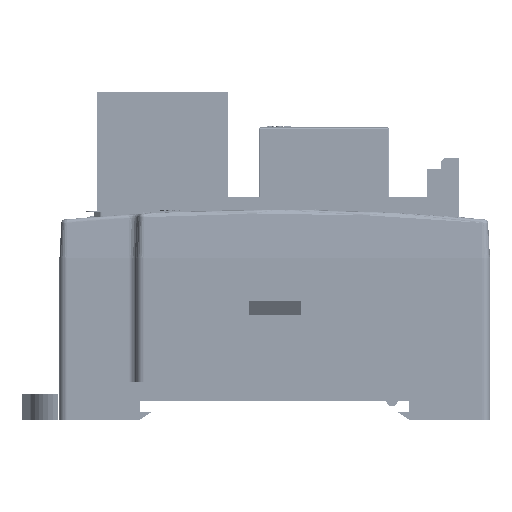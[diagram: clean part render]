
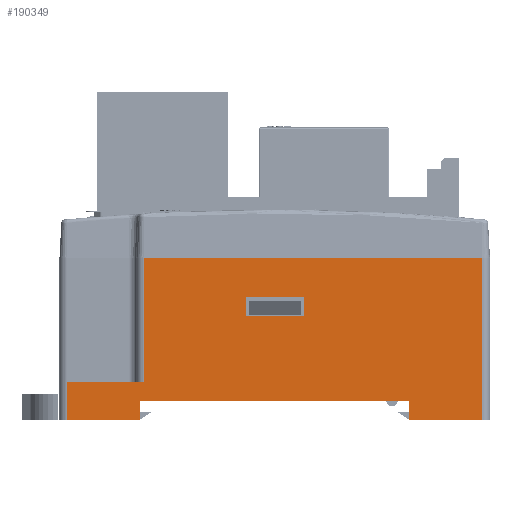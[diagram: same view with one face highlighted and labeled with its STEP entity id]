
A CAD part, front view. The second image highlights one B-rep face of the part: STEP entity #190349.
In plain terms, the highlighted planar face has unit normal (0, -1, 0).
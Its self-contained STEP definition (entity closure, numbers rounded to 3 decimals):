
#12616=DIRECTION('',(0.,0.,-1.));
#12617=VECTOR('',#12616,21.);
#12618=CARTESIAN_POINT('',(27.,-85.,0.));
#12619=LINE('',#12618,#12617);
#12676=DIRECTION('',(0.,0.,-1.));
#12677=VECTOR('',#12676,2.5);
#12678=CARTESIAN_POINT('',(17.5,-85.,-18.5));
#12679=LINE('',#12678,#12677);
#13271=DIRECTION('',(0.,0.,1.));
#13272=VECTOR('',#13271,16.1);
#13273=CARTESIAN_POINT('',(-17.,-85.,-16.1));
#13274=LINE('',#13273,#13272);
#13279=DIRECTION('',(1.,0.,0.));
#13280=VECTOR('',#13279,9.5);
#13281=CARTESIAN_POINT('',(17.5,-85.,-21.));
#13282=LINE('',#13281,#13280);
#13283=DIRECTION('',(1.,0.,0.));
#13284=VECTOR('',#13283,9.5);
#13285=CARTESIAN_POINT('',(-27.,-85.,-21.));
#13286=LINE('',#13285,#13284);
#13291=DIRECTION('',(0.,0.,1.));
#13292=VECTOR('',#13291,2.5);
#13293=CARTESIAN_POINT('',(-3.75,-85.,-7.5));
#13294=LINE('',#13293,#13292);
#13363=DIRECTION('',(1.,0.,0.));
#13364=VECTOR('',#13363,7.5);
#13365=CARTESIAN_POINT('',(-3.75,-85.,-5.));
#13366=LINE('',#13365,#13364);
#13512=DIRECTION('',(0.,0.,-1.));
#13513=VECTOR('',#13512,2.5);
#13514=CARTESIAN_POINT('',(3.75,-85.,-5.));
#13515=LINE('',#13514,#13513);
#13520=DIRECTION('',(-1.,0.,0.));
#13521=VECTOR('',#13520,7.5);
#13522=CARTESIAN_POINT('',(3.75,-85.,-7.5));
#13523=LINE('',#13522,#13521);
#13528=DIRECTION('',(-1.,0.,0.));
#13529=VECTOR('',#13528,35.);
#13530=CARTESIAN_POINT('',(17.5,-85.,-18.5));
#13531=LINE('',#13530,#13529);
#13536=DIRECTION('',(0.,0.,1.));
#13537=VECTOR('',#13536,2.5);
#13538=CARTESIAN_POINT('',(-17.5,-85.,-21.));
#13539=LINE('',#13538,#13537);
#62285=DIRECTION('',(1.,0.,0.));
#62286=VECTOR('',#62285,10.);
#62287=CARTESIAN_POINT('',(-27.,-85.,-16.1));
#62288=LINE('',#62287,#62286);
#62322=DIRECTION('',(0.,0.,1.));
#62323=VECTOR('',#62322,4.9);
#62324=CARTESIAN_POINT('',(-27.,-85.,-21.));
#62325=LINE('',#62324,#62323);
#62415=DIRECTION('',(1.,0.,0.));
#62416=VECTOR('',#62415,44.);
#62417=CARTESIAN_POINT('',(-17.,-85.,0.));
#62418=LINE('',#62417,#62416);
#166525=CARTESIAN_POINT('',(-17.5,-85.,-21.));
#166526=VERTEX_POINT('',#166525);
#166527=CARTESIAN_POINT('',(-27.,-85.,-21.));
#166528=VERTEX_POINT('',#166527);
#166555=CARTESIAN_POINT('',(27.,-85.,-21.));
#166556=VERTEX_POINT('',#166555);
#166557=CARTESIAN_POINT('',(17.5,-85.,-21.));
#166558=VERTEX_POINT('',#166557);
#166627=CARTESIAN_POINT('',(17.5,-85.,-18.5));
#166628=CARTESIAN_POINT('',(-17.5,-85.,-18.5));
#166629=VERTEX_POINT('',#166627);
#166630=VERTEX_POINT('',#166628);
#166631=CARTESIAN_POINT('',(-27.,-85.,-16.1));
#166632=VERTEX_POINT('',#166631);
#166633=CARTESIAN_POINT('',(-17.,-85.,-16.1));
#166634=VERTEX_POINT('',#166633);
#166635=CARTESIAN_POINT('',(-3.75,-85.,-7.5));
#166636=CARTESIAN_POINT('',(-3.75,-85.,-5.));
#166637=VERTEX_POINT('',#166635);
#166638=VERTEX_POINT('',#166636);
#166639=CARTESIAN_POINT('',(3.75,-85.,-7.5));
#166640=VERTEX_POINT('',#166639);
#166641=CARTESIAN_POINT('',(3.75,-85.,-5.));
#166642=VERTEX_POINT('',#166641);
#173850=CARTESIAN_POINT('',(-17.,-85.,0.));
#173851=CARTESIAN_POINT('',(27.,-85.,0.));
#173852=VERTEX_POINT('',#173850);
#173853=VERTEX_POINT('',#173851);
#190316=CARTESIAN_POINT('',(0.,-85.,-10.5));
#190317=DIRECTION('',(0.,1.,0.));
#190318=DIRECTION('',(1.,0.,0.));
#190319=AXIS2_PLACEMENT_3D('',#190316,#190317,#190318);
#190320=PLANE('',#190319);
#190321=ORIENTED_EDGE('',*,*,#189127,.T.);
#190322=ORIENTED_EDGE('',*,*,#189148,.F.);
#190323=ORIENTED_EDGE('',*,*,#189246,.F.);
#190325=ORIENTED_EDGE('',*,*,#190324,.T.);
#190327=ORIENTED_EDGE('',*,*,#190326,.F.);
#190329=ORIENTED_EDGE('',*,*,#190328,.F.);
#190331=ORIENTED_EDGE('',*,*,#190330,.T.);
#190333=ORIENTED_EDGE('',*,*,#190332,.T.);
#190334=ORIENTED_EDGE('',*,*,#190300,.T.);
#190336=ORIENTED_EDGE('',*,*,#190335,.T.);
#190337=EDGE_LOOP('',(#190321,#190322,#190323,#190325,#190327,#190329,#190331,
#190333,#190334,#190336));
#190338=FACE_OUTER_BOUND('',#190337,.F.);
#190340=ORIENTED_EDGE('',*,*,#190339,.F.);
#190342=ORIENTED_EDGE('',*,*,#190341,.F.);
#190344=ORIENTED_EDGE('',*,*,#190343,.F.);
#190346=ORIENTED_EDGE('',*,*,#190345,.F.);
#190347=EDGE_LOOP('',(#190340,#190342,#190344,#190346));
#190348=FACE_BOUND('',#190347,.F.);
#190349=ADVANCED_FACE('',(#190338,#190348),#190320,.F.);
#189127=EDGE_CURVE('',#173853,#166556,#12619,.T.);
#189148=EDGE_CURVE('',#166558,#166556,#13282,.T.);
#189246=EDGE_CURVE('',#166629,#166558,#12679,.T.);
#190300=EDGE_CURVE('',#166634,#173852,#13274,.T.);
#190324=EDGE_CURVE('',#166629,#166630,#13531,.T.);
#190326=EDGE_CURVE('',#166526,#166630,#13539,.T.);
#190328=EDGE_CURVE('',#166528,#166526,#13286,.T.);
#190330=EDGE_CURVE('',#166528,#166632,#62325,.T.);
#190332=EDGE_CURVE('',#166632,#166634,#62288,.T.);
#190335=EDGE_CURVE('',#173852,#173853,#62418,.T.);
#190339=EDGE_CURVE('',#166637,#166638,#13294,.T.);
#190341=EDGE_CURVE('',#166640,#166637,#13523,.T.);
#190343=EDGE_CURVE('',#166642,#166640,#13515,.T.);
#190345=EDGE_CURVE('',#166638,#166642,#13366,.T.);
